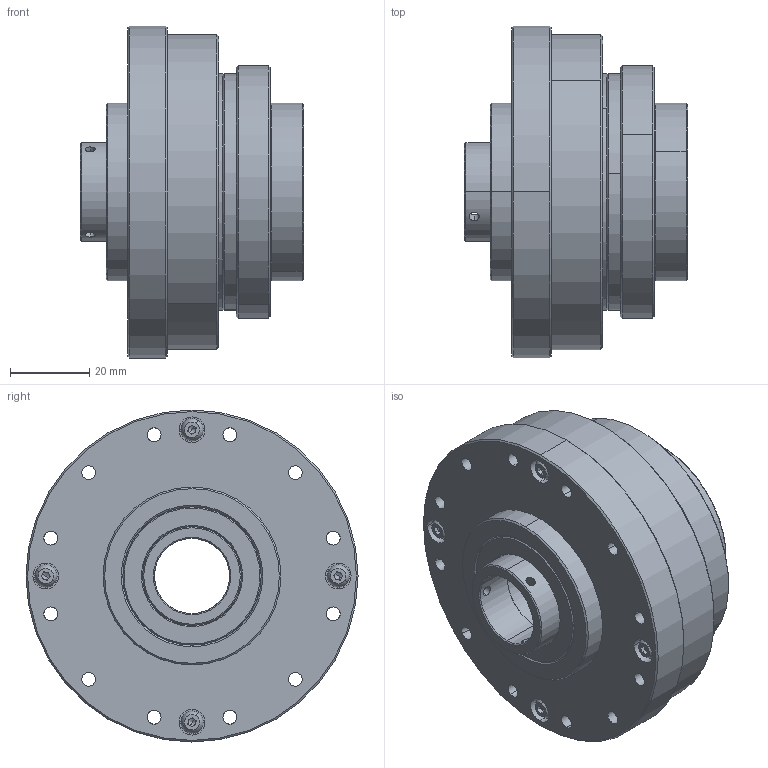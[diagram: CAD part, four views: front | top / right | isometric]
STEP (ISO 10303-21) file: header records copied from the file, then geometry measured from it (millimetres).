
FILE_DESCRIPTION (( 'STEP AP203' ), '1' );
FILE_NAME ('FHG-17-XXX-AH.STEP', '2019-09-26T06:57:39', ( '' ), ( '' ), 'SwSTEP 2.0', 'SolidWorks 2016', '' );
FILE_SCHEMA (( 'CONFIG_CONTROL_DESIGN' ));
Length unit declared in the file: millimetre
Products named in the file (1): FHG-17-XXX-AH
Bounding box: 56.5 x 84 x 84 mm (x, y, z)
Volume: 113962.3 mm3; surface area: 77745.7 mm2
Topology: 17 solids, 17 shells, 747 faces, 1708 edges, 1028 vertices
Faces by surface type: cylinder 352, cone 194, plane 167, torus 34
Entity records: 21341 total; most frequent: DIRECTION 4062, CARTESIAN_POINT 3656, ORIENTED_EDGE 3304, AXIS2_PLACEMENT_3D 1674, EDGE_CURVE 1652, VERTEX_POINT 1028, EDGE_LOOP 996, CIRCLE 926
